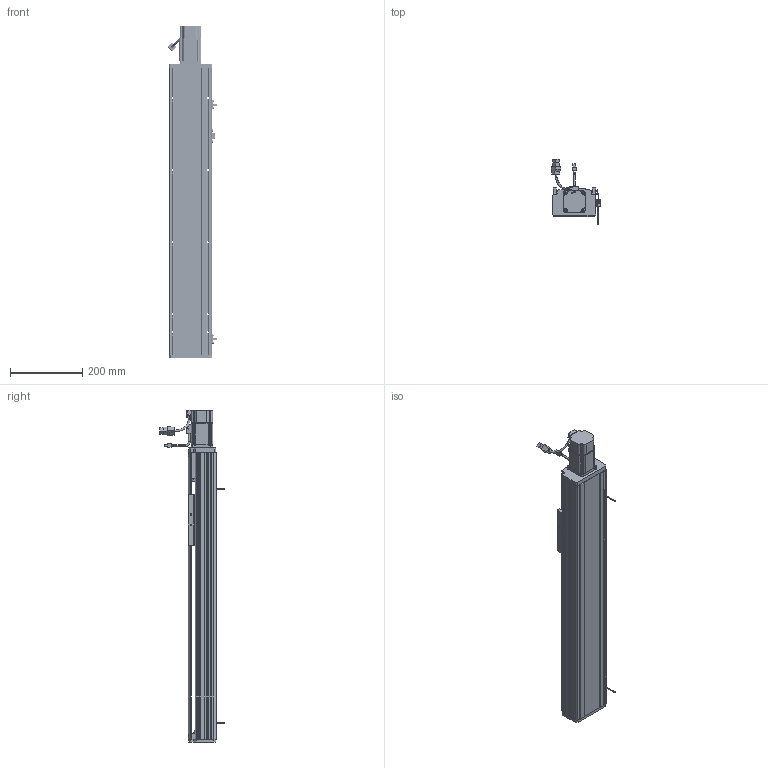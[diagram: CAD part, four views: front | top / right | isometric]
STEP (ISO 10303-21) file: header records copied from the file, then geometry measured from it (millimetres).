
FILE_DESCRIPTION (( 'STEP AP214' ), '1' );
FILE_NAME ('CTH120-550.STEP', '2019-11-20T02:41:27', ( '微软用户' ), ( '微软中国' ), 'SwSTEP 2.0', 'SolidWorks 2017', '' );
FILE_SCHEMA (( 'AUTOMOTIVE_DESIGN' ));
Length unit declared in the file: millimetre
Products named in the file (33): 7001-DB; 7001; 噩砃EGH15-CA; 粣創揤啣; M3-L8囀鞠褒蹟佪; COL12B-粣遠; CT12耀郪-覜茼んえ; 坶踡蹟譫; EE-SX672-BR; 120耀郪-粣創釱; M4-L6半圆头内六角螺丝; 120耀郪-傷啣; M5-L20囀鞠褒蹟佪; 120模组-盖子_默认<按加工>; M5-L12囀鞠褒蹟佪; 120耀郪-侜督儂啣; 怢湛200W侜督萇儂ECMA-CX0602ES; SFH1605; 盓傅釱蚾饜极; 136蹟簽蟀諉輸; 6000; 120模组-移动座_默认<按加工>; 120耀郪-盓傅釱; SFH1605-450; M4-L16囀鞠褒蹟佪; 120模组-底座_默认<按加工>; EGH15-CA; EGH15_RAIL; CTH120-550; 珨极宒粣創釱; 遣喳蝶15x12x8; M4-L10囀鞠褒蹟佪; M4-L22囀鞠褒蹟佪
Assembly tree (90 placements, depth 4):
  CTH120-550
    120模组-底座_默认<按加工>
    SFH1605-450
    120模组-移动座_默认<按加工>
    136蹟簽蟀諉輸
    SFH1605
    120耀郪-侜督儂啣
    120模组-盖子_默认<按加工>
    120耀郪-傷啣
    珨极宒粣創釱
      120耀郪-粣創釱
      坶踡蹟譫
      COL12B-粣遠  x2
      粣創揤啣
      7001-DB
        7001  x2
      M4-L22囀鞠褒蹟佪  x6
      M4-L10囀鞠褒蹟佪  x4
      遣喳蝶15x12x8
    EGH15_RAIL  x2
    EGH15-CA  x2
    M4-L16囀鞠褒蹟佪  x8
    M4-L10囀鞠褒蹟佪  x22
    盓傅釱蚾饜极
      120耀郪-盓傅釱
      6000
      遣喳蝶15x12x8  x2
      M4-L22囀鞠褒蹟佪  x2
    怢湛200W侜督萇儂ECMA-CX0602ES
    M5-L12囀鞠褒蹟佪  x3
    M5-L20囀鞠褒蹟佪  x4
    M4-L6半圆头内六角螺丝  x4
    EE-SX672-BR  x2
    CT12耀郪-覜茼んえ
    M3-L8囀鞠褒蹟佪  x4
    噩砃EGH15-CA  x2
Bounding box: 137.94 x 179.67 x 922 mm (x, y, z)
Volume: 3636183.4 mm3; surface area: 1104447.7 mm2
Topology: 87 solids, 96 shells, 5260 faces, 13883 edges, 8881 vertices
Faces by surface type: plane 2851, cylinder 1536, cone 539, bspline 241, torus 81, sphere 12
Entity records: 111734 total; most frequent: CARTESIAN_POINT 32881, ORIENTED_EDGE 16600, DIRECTION 15015, EDGE_CURVE 8300, VERTEX_POINT 5447, AXIS2_PLACEMENT_3D 5110, VECTOR 4795, LINE 4795
